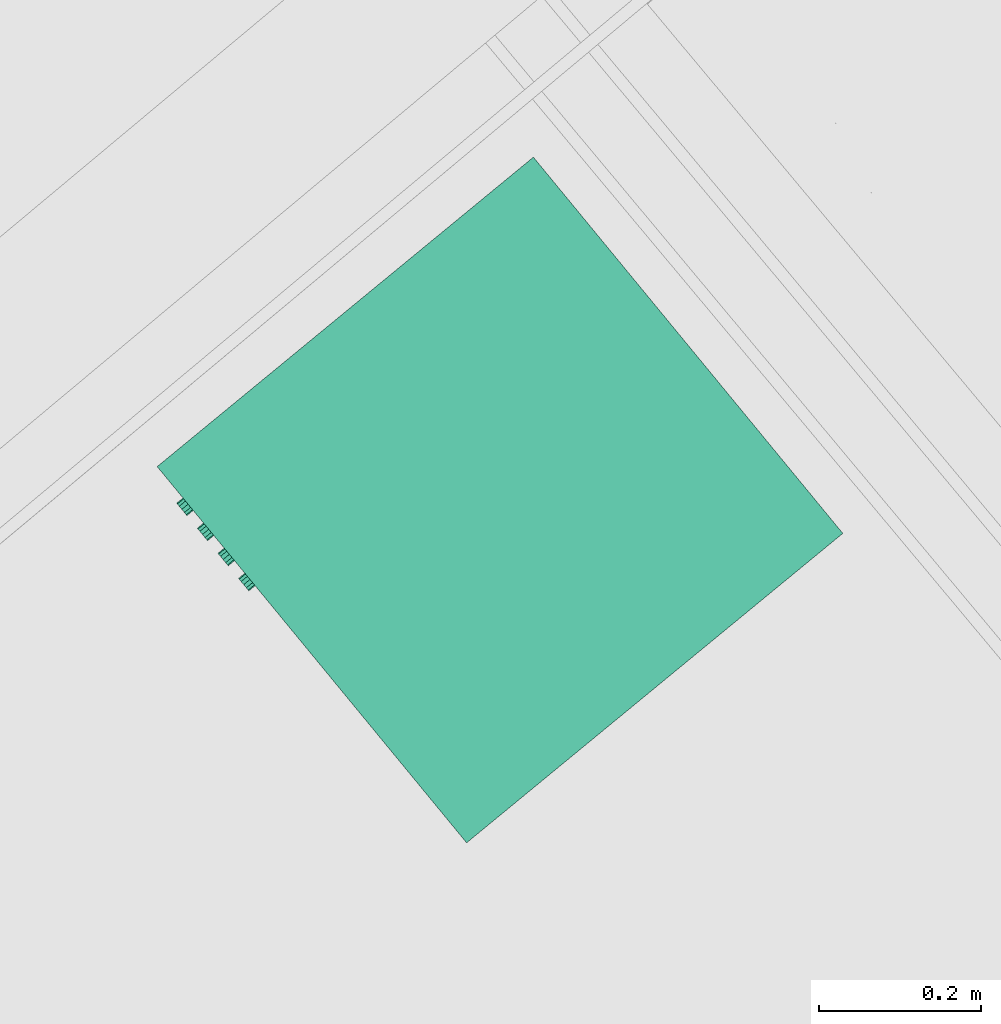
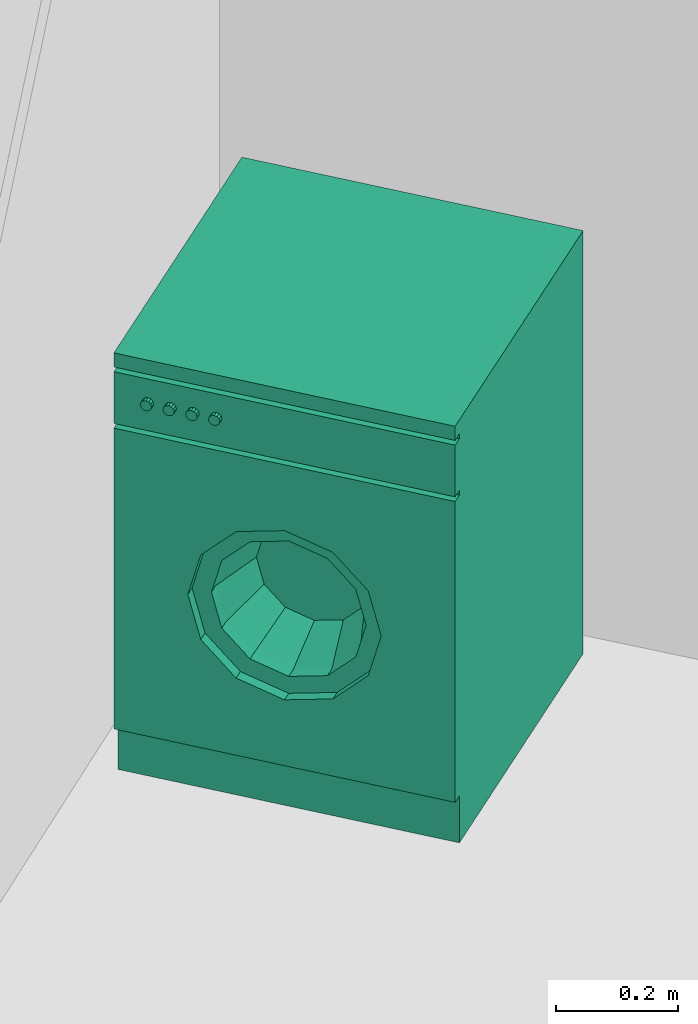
# One storey, part 45 of 50: 1 sanitary terminal.
"""IFC4 building model written with IfcOpenShell, lengths in metres."""

from ifc_helpers import new_model, entity, si_unit, converted_unit, derived_unit, direction, frame, origin_with_axes, place, context, subcontext, project, spatial, polygons, source, transform, mapped, type_object, element, save


model = new_model("IFC4")

# Units and contexts
model_context = context("Model", 3, precision=1e-05, world=origin_with_axes(), true_north=direction((0.0, 1.0)))
body_context = subcontext(model_context, "Body", "Model", "MODEL_VIEW")
ifc_project = project(units=[si_unit("LENGTHUNIT", "METRE"), si_unit("AREAUNIT", "SQUARE_METRE"), si_unit("VOLUMEUNIT", "CUBIC_METRE"), converted_unit("PLANEANGLEUNIT", "DEGREE", entity("IfcPlaneAngleMeasure", 0.0174532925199), si_unit("PLANEANGLEUNIT", "RADIAN"), dimensions=[0, 0, 0, 0, 0, 0, 0]), converted_unit("TIMEUNIT", "Year", entity("IfcTimeMeasure", 31556926.0), si_unit("TIMEUNIT", "SECOND"), dimensions=[0, 0, 1, 0, 0, 0, 0]), si_unit("MASSUNIT", "GRAM", prefix="KILO"), si_unit("THERMODYNAMICTEMPERATUREUNIT", "DEGREE_CELSIUS"), si_unit("LUMINOUSINTENSITYUNIT", "LUMEN"), si_unit("ENERGYUNIT", "JOULE", prefix="MEGA"), derived_unit("THERMALCONDUCTANCEUNIT", [(si_unit("POWERUNIT", "WATT"), 1), (si_unit("LENGTHUNIT", "METRE"), -1), (si_unit("THERMODYNAMICTEMPERATUREUNIT", "KELVIN"), -1)]), derived_unit("SPECIFICHEATCAPACITYUNIT", [(si_unit("ENERGYUNIT", "JOULE"), 1), (si_unit("MASSUNIT", "GRAM", prefix="KILO"), -1), (si_unit("THERMODYNAMICTEMPERATUREUNIT", "KELVIN"), -1)]), derived_unit("MASSDENSITYUNIT", [(si_unit("MASSUNIT", "GRAM", prefix="KILO"), 1), (si_unit("VOLUMEUNIT", "CUBIC_METRE"), -1)])], contexts=[model_context])

# Site, building, storey
site_placement = place(None, frame((-0.00153261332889, -0.00661245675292, 0.0), z_axis=(0.0, 0.0, 1.0), x_axis=(1.0, 0.0, 0.0)))
site = spatial("IfcSite", under=ifc_project, at=site_placement, Name="Site", CompositionType="ELEMENT")
building_placement = place(site_placement, origin_with_axes())
building = spatial("IfcBuilding", under=site, at=building_placement, Name="Building", CompositionType="ELEMENT")
storey_placement = place(building_placement, frame((0.0, 0.0, 2.74), z_axis=(0.0, 0.0, 1.0), x_axis=(1.0, 0.0, 0.0)))
storey = spatial("IfcBuildingStorey", under=building, at=storey_placement, Name="OG1", CompositionType="ELEMENT", Elevation=2.74)

# Sanitary terminal
sanitary_terminal_type = type_object("IfcSanitaryTerminalType", Name="Waschmaschine 01 26", PredefinedType="NOTDEFINED")
shared_shape = source(origin_with_axes(), body_context, "Body", "Tessellation", [
    polygons([(-0.3, -0.58, 0.0944444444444), (0.3, -0.58, 0.0944444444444), (0.3, -0.6, 0.0944444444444), (-0.3, -0.6, 0.0944444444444), (-0.3, -0.58, 0.698888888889), (0.3, -0.58, 0.698888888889), (0.17, -0.58, 0.396666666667), (0.147224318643, -0.58, 0.481666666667), (0.085, -0.58, 0.54389098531), (0.0, -0.58, 0.566666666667), (-0.085, -0.58, 0.54389098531), (-0.147224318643, -0.58, 0.481666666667), (-0.17, -0.58, 0.396666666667), (-0.147224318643, -0.58, 0.311666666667), (-0.085, -0.58, 0.249442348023), (0.0, -0.58, 0.226666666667), (0.085, -0.58, 0.249442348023), (0.147224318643, -0.58, 0.311666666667), (0.3, -0.6, 0.698888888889), (-0.3, -0.6, 0.698888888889), (0.17, -0.6, 0.396666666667), (0.147224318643, -0.6, 0.311666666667), (0.085, -0.6, 0.249442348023), (0.0, -0.6, 0.226666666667), (-0.085, -0.6, 0.249442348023), (-0.147224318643, -0.6, 0.311666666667), (-0.17, -0.6, 0.396666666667), (-0.147224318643, -0.6, 0.481666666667), (-0.085, -0.6, 0.54389098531), (0.0, -0.6, 0.566666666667), (0.085, -0.6, 0.54389098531), (0.147224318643, -0.6, 0.481666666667)], [[[1, 2, 3, 4]], [[1, 5, 6, 2], [7, 8, 9, 10, 11, 12, 13, 14, 15, 16, 17, 18]], [[2, 6, 19, 3]], [[4, 3, 19, 20], [21, 22, 23, 24, 25, 26, 27, 28, 29, 30, 31, 32]], [[5, 1, 4, 20]], [[6, 5, 20, 19]], [[8, 7, 21, 32]], [[9, 8, 32, 31]], [[10, 9, 31, 30]], [[11, 10, 30, 29]], [[12, 11, 29, 28]], [[13, 12, 28, 27]], [[14, 13, 27, 26]], [[15, 14, 26, 25]], [[16, 15, 25, 24]], [[17, 16, 24, 23]], [[18, 17, 23, 22]], [[7, 18, 22, 21]]], closed=True),
    polygons([(0.17, -0.56, 0.396666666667), (0.147224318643, -0.56, 0.481666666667), (0.147224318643, -0.58, 0.481666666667), (0.17, -0.58, 0.396666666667), (0.147224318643, -0.56, 0.311666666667), (0.085, -0.56, 0.249442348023), (0.0, -0.56, 0.226666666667), (-0.085, -0.56, 0.249442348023), (-0.147224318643, -0.56, 0.311666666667), (-0.17, -0.56, 0.396666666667), (-0.147224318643, -0.56, 0.481666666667), (-0.085, -0.56, 0.54389098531), (0.0, -0.56, 0.566666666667), (0.085, -0.56, 0.54389098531), (0.136, -0.56, 0.396666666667), (0.117779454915, -0.56, 0.464666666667), (0.068, -0.56, 0.514446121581), (0.0, -0.56, 0.532666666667), (-0.068, -0.56, 0.514446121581), (-0.117779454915, -0.56, 0.464666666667), (-0.136, -0.56, 0.396666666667), (-0.117779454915, -0.56, 0.328666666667), (-0.068, -0.56, 0.278887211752), (0.0, -0.56, 0.260666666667), (0.068, -0.56, 0.278887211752), (0.117779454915, -0.56, 0.328666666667), (0.085, -0.58, 0.54389098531), (0.0, -0.58, 0.566666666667), (-0.085, -0.58, 0.54389098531), (-0.147224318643, -0.58, 0.481666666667), (-0.17, -0.58, 0.396666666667), (-0.147224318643, -0.58, 0.311666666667), (-0.085, -0.58, 0.249442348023), (0.0, -0.58, 0.226666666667), (0.085, -0.58, 0.249442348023), (0.147224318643, -0.58, 0.311666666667), (0.136, -0.58, 0.396666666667), (0.117779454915, -0.58, 0.328666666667), (0.068, -0.58, 0.278887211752), (0.0, -0.58, 0.260666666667), (-0.068, -0.58, 0.278887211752), (-0.117779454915, -0.58, 0.328666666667), (-0.136, -0.58, 0.396666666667), (-0.117779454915, -0.58, 0.464666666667), (-0.068, -0.58, 0.514446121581), (0.0, -0.58, 0.532666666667), (0.068, -0.58, 0.514446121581), (0.117779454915, -0.58, 0.464666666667)], [[[1, 2, 3, 4]], [[1, 5, 6, 7, 8, 9, 10, 11, 12, 13, 14, 2], [15, 16, 17, 18, 19, 20, 21, 22, 23, 24, 25, 26]], [[2, 14, 27, 3]], [[4, 3, 27, 28, 29, 30, 31, 32, 33, 34, 35, 36], [37, 38, 39, 40, 41, 42, 43, 44, 45, 46, 47, 48]], [[5, 1, 4, 36]], [[6, 5, 36, 35]], [[7, 6, 35, 34]], [[8, 7, 34, 33]], [[9, 8, 33, 32]], [[10, 9, 32, 31]], [[11, 10, 31, 30]], [[12, 11, 30, 29]], [[13, 12, 29, 28]], [[14, 13, 28, 27]], [[16, 15, 37, 48]], [[17, 16, 48, 47]], [[18, 17, 47, 46]], [[19, 18, 46, 45]], [[20, 19, 45, 44]], [[21, 20, 44, 43]], [[22, 21, 43, 42]], [[23, 22, 42, 41]], [[24, 23, 41, 40]], [[25, 24, 40, 39]], [[26, 25, 39, 38]], [[15, 26, 38, 37]]], closed=True),
    polygons([(-0.068, -0.56, 0.514446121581), (0.0, -0.56, 0.532666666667), (0.0, -0.46, 0.498666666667), (-0.051, -0.46, 0.485001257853), (0.068, -0.56, 0.514446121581), (0.051, -0.46, 0.485001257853), (0.088334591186, -0.46, 0.447666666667), (0.102, -0.46, 0.396666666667), (0.088334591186, -0.46, 0.345666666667), (0.051, -0.46, 0.308332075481), (0.0, -0.46, 0.294666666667), (-0.051, -0.46, 0.308332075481), (-0.088334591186, -0.46, 0.345666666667), (-0.102, -0.46, 0.396666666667), (-0.088334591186, -0.46, 0.447666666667), (-0.117779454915, -0.56, 0.464666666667), (0.117779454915, -0.56, 0.464666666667), (0.136, -0.56, 0.396666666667), (0.117779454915, -0.56, 0.328666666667), (0.068, -0.56, 0.278887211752), (0.0, -0.56, 0.260666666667), (-0.068, -0.56, 0.278887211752), (-0.117779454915, -0.56, 0.328666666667), (-0.136, -0.56, 0.396666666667)], [[[1, 2, 3, 4]], [[2, 5, 6, 3]], [[3, 6, 7, 8, 9, 10, 11, 12, 13, 14, 15, 4]], [[16, 1, 4, 15]], [[5, 17, 7, 6]], [[17, 18, 8, 7]], [[18, 19, 9, 8]], [[19, 20, 10, 9]], [[20, 21, 11, 10]], [[21, 22, 12, 11]], [[22, 23, 13, 12]], [[23, 24, 14, 13]], [[24, 16, 15, 14]]], closed=False),
    polygons([(-0.3, -0.58, 0.0944444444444), (-0.3, -0.58, 0.821666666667), (-0.3, 0.0, 0.821666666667), (-0.3, 0.0, 0.0944444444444)], [[[1, 2, 3, 4]]], closed=False),
    polygons([(0.3, -0.58, 0.0944444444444), (0.3, -0.58, 0.821666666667), (0.3, 0.0, 0.821666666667), (0.3, 0.0, 0.0944444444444)], [[[1, 2, 3, 4]]], closed=False),
    polygons([(-0.3, 0.0, 0.0944444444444), (-0.3, 0.0, 0.821666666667), (0.3, 0.0, 0.821666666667), (0.3, 0.0, 0.0944444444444)], [[[1, 2, 3, 4]]], closed=False),
    polygons([(-0.3, -0.58, 0.0), (0.3, -0.58, 0.0), (0.3, -0.58, 0.0944444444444), (-0.3, -0.58, 0.0944444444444), (-0.3, 0.0, 0.0), (0.3, 0.0, 0.0), (0.3, 0.0, 0.0944444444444), (-0.3, 0.0, 0.0944444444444)], [[[1, 2, 3, 4]], [[1, 5, 6, 2]], [[2, 6, 7, 3]], [[4, 3, 7, 8]], [[5, 1, 4, 8]], [[6, 5, 8, 7]]], closed=True),
    polygons([(-0.3, -0.58, 0.708333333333), (0.3, -0.58, 0.708333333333), (0.3, -0.6, 0.708333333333), (-0.3, -0.6, 0.708333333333), (-0.3, -0.58, 0.812222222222), (0.3, -0.58, 0.812222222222), (0.3, -0.6, 0.812222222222), (-0.3, -0.6, 0.812222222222)], [[[1, 2, 3, 4]], [[1, 5, 6, 2]], [[2, 6, 7, 3]], [[4, 3, 7, 8]], [[5, 1, 4, 8]], [[6, 5, 8, 7]]], closed=True),
    polygons([(-0.3, -0.58, 0.698888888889), (-0.3, -0.58, 0.821666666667), (0.3, -0.58, 0.821666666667), (0.3, -0.58, 0.698888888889)], [[[1, 2, 3, 4]]], closed=False),
    polygons([(-0.3, -0.6, 0.821666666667), (0.3, -0.6, 0.821666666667), (0.3, -0.6, 0.85), (-0.3, -0.6, 0.85), (-0.3, 0.0, 0.821666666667), (0.3, 0.0, 0.821666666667), (0.3, 0.0, 0.85), (-0.3, 0.0, 0.85)], [[[1, 2, 3, 4]], [[1, 5, 6, 2]], [[2, 6, 7, 3]], [[4, 3, 7, 8]], [[5, 1, 4, 8]], [[6, 5, 8, 7]]], closed=True),
    polygons([(-0.231339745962, -0.6, 0.76), (-0.235, -0.6, 0.756339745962), (-0.24, -0.6, 0.755), (-0.245, -0.6, 0.756339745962), (-0.248660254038, -0.6, 0.76), (-0.25, -0.6, 0.765), (-0.248660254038, -0.6, 0.77), (-0.245, -0.6, 0.773660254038), (-0.24, -0.6, 0.775), (-0.235, -0.6, 0.773660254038), (-0.231339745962, -0.6, 0.77), (-0.23, -0.6, 0.765), (-0.231339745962, -0.61, 0.76), (-0.235, -0.61, 0.756339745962), (-0.24, -0.61, 0.755), (-0.245, -0.61, 0.756339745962), (-0.248660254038, -0.61, 0.76), (-0.25, -0.61, 0.765), (-0.248660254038, -0.61, 0.77), (-0.245, -0.61, 0.773660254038), (-0.24, -0.61, 0.775), (-0.235, -0.61, 0.773660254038), (-0.231339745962, -0.61, 0.77), (-0.23, -0.61, 0.765)], [[[1, 2, 3, 4, 5, 6, 7, 8, 9, 10, 11, 12]], [[2, 1, 13, 14]], [[3, 2, 14, 15]], [[4, 3, 15, 16]], [[5, 4, 16, 17]], [[6, 5, 17, 18]], [[7, 6, 18, 19]], [[8, 7, 19, 20]], [[9, 8, 20, 21]], [[10, 9, 21, 22]], [[11, 10, 22, 23]], [[12, 11, 23, 24]], [[1, 12, 24, 13]], [[13, 24, 23, 22, 21, 20, 19, 18, 17, 16, 15, 14]]], closed=True),
    polygons([(-0.191339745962, -0.6, 0.76), (-0.195, -0.6, 0.756339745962), (-0.2, -0.6, 0.755), (-0.205, -0.6, 0.756339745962), (-0.208660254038, -0.6, 0.76), (-0.21, -0.6, 0.765), (-0.208660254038, -0.6, 0.77), (-0.205, -0.6, 0.773660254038), (-0.2, -0.6, 0.775), (-0.195, -0.6, 0.773660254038), (-0.191339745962, -0.6, 0.77), (-0.19, -0.6, 0.765), (-0.191339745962, -0.61, 0.76), (-0.195, -0.61, 0.756339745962), (-0.2, -0.61, 0.755), (-0.205, -0.61, 0.756339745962), (-0.208660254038, -0.61, 0.76), (-0.21, -0.61, 0.765), (-0.208660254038, -0.61, 0.77), (-0.205, -0.61, 0.773660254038), (-0.2, -0.61, 0.775), (-0.195, -0.61, 0.773660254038), (-0.191339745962, -0.61, 0.77), (-0.19, -0.61, 0.765)], [[[1, 2, 3, 4, 5, 6, 7, 8, 9, 10, 11, 12]], [[2, 1, 13, 14]], [[3, 2, 14, 15]], [[4, 3, 15, 16]], [[5, 4, 16, 17]], [[6, 5, 17, 18]], [[7, 6, 18, 19]], [[8, 7, 19, 20]], [[9, 8, 20, 21]], [[10, 9, 21, 22]], [[11, 10, 22, 23]], [[12, 11, 23, 24]], [[1, 12, 24, 13]], [[13, 24, 23, 22, 21, 20, 19, 18, 17, 16, 15, 14]]], closed=True),
    polygons([(-0.151339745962, -0.6, 0.76), (-0.155, -0.6, 0.756339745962), (-0.16, -0.6, 0.755), (-0.165, -0.6, 0.756339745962), (-0.168660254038, -0.6, 0.76), (-0.17, -0.6, 0.765), (-0.168660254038, -0.6, 0.77), (-0.165, -0.6, 0.773660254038), (-0.16, -0.6, 0.775), (-0.155, -0.6, 0.773660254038), (-0.151339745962, -0.6, 0.77), (-0.15, -0.6, 0.765), (-0.151339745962, -0.61, 0.76), (-0.155, -0.61, 0.756339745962), (-0.16, -0.61, 0.755), (-0.165, -0.61, 0.756339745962), (-0.168660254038, -0.61, 0.76), (-0.17, -0.61, 0.765), (-0.168660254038, -0.61, 0.77), (-0.165, -0.61, 0.773660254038), (-0.16, -0.61, 0.775), (-0.155, -0.61, 0.773660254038), (-0.151339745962, -0.61, 0.77), (-0.15, -0.61, 0.765)], [[[1, 2, 3, 4, 5, 6, 7, 8, 9, 10, 11, 12]], [[2, 1, 13, 14]], [[3, 2, 14, 15]], [[4, 3, 15, 16]], [[5, 4, 16, 17]], [[6, 5, 17, 18]], [[7, 6, 18, 19]], [[8, 7, 19, 20]], [[9, 8, 20, 21]], [[10, 9, 21, 22]], [[11, 10, 22, 23]], [[12, 11, 23, 24]], [[1, 12, 24, 13]], [[13, 24, 23, 22, 21, 20, 19, 18, 17, 16, 15, 14]]], closed=True),
    polygons([(-0.111339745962, -0.6, 0.76), (-0.115, -0.6, 0.756339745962), (-0.12, -0.6, 0.755), (-0.125, -0.6, 0.756339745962), (-0.128660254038, -0.6, 0.76), (-0.13, -0.6, 0.765), (-0.128660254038, -0.6, 0.77), (-0.125, -0.6, 0.773660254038), (-0.12, -0.6, 0.775), (-0.115, -0.6, 0.773660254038), (-0.111339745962, -0.6, 0.77), (-0.11, -0.6, 0.765), (-0.111339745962, -0.61, 0.76), (-0.115, -0.61, 0.756339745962), (-0.12, -0.61, 0.755), (-0.125, -0.61, 0.756339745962), (-0.128660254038, -0.61, 0.76), (-0.13, -0.61, 0.765), (-0.128660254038, -0.61, 0.77), (-0.125, -0.61, 0.773660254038), (-0.12, -0.61, 0.775), (-0.115, -0.61, 0.773660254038), (-0.111339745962, -0.61, 0.77), (-0.11, -0.61, 0.765)], [[[1, 2, 3, 4, 5, 6, 7, 8, 9, 10, 11, 12]], [[2, 1, 13, 14]], [[3, 2, 14, 15]], [[4, 3, 15, 16]], [[5, 4, 16, 17]], [[6, 5, 17, 18]], [[7, 6, 18, 19]], [[8, 7, 19, 20]], [[9, 8, 20, 21]], [[10, 9, 21, 22]], [[11, 10, 22, 23]], [[12, 11, 23, 24]], [[1, 12, 24, 13]], [[13, 24, 23, 22, 21, 20, 19, 18, 17, 16, 15, 14]]], closed=True),
])
sanitary_terminal_placement = place(storey_placement, frame((-0.983582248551, 20.7332559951, 0.22), z_axis=(0.0, 0.0, 1.0), x_axis=(0.635231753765, -0.772321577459, 0.0)))
element("IfcSanitaryTerminal", 1, at=sanitary_terminal_placement, inside=storey, type_object=sanitary_terminal_type, Name="Objekt-0002", PredefinedType="NOTDEFINED", context=body_context, shape_type="MappedRepresentation", body=[
    mapped(shared_shape, transform((0.0, 0.0, 0.0))),
])

save(model, "model.ifc")
